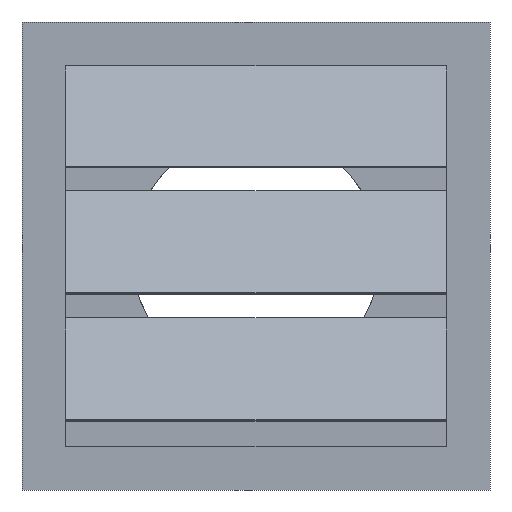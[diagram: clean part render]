
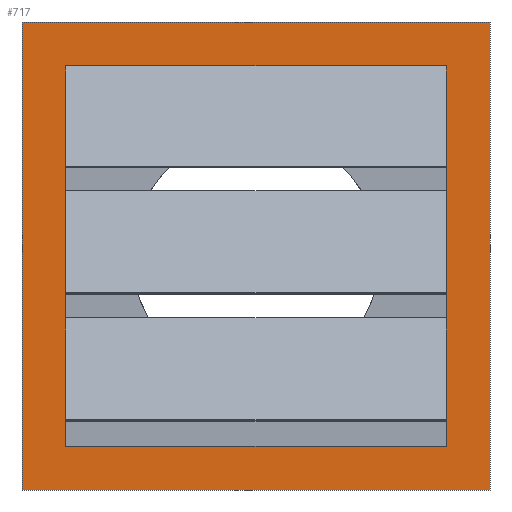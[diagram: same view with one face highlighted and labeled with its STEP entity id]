
A CAD part, front view. The second image highlights one B-rep face of the part: STEP entity #717.
In plain terms, the highlighted planar face has unit normal (0, -1, 0).
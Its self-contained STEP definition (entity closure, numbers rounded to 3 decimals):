
#21=LINE('',#996,#110);
#28=LINE('',#1011,#117);
#39=LINE('',#1030,#128);
#46=LINE('',#1045,#135);
#59=LINE('',#1066,#148);
#60=LINE('',#1069,#149);
#68=LINE('',#1084,#157);
#69=LINE('',#1086,#158);
#76=LINE('',#1101,#165);
#79=LINE('',#1106,#168);
#83=LINE('',#1114,#172);
#84=LINE('',#1117,#173);
#87=LINE('',#1123,#176);
#89=LINE('',#1126,#178);
#90=LINE('',#1128,#179);
#91=LINE('',#1130,#180);
#92=LINE('',#1134,#181);
#93=LINE('',#1136,#182);
#94=LINE('',#1138,#183);
#95=LINE('',#1139,#184);
#110=VECTOR('',#812,10.);
#117=VECTOR('',#823,10.);
#128=VECTOR('',#842,10.);
#135=VECTOR('',#853,10.);
#148=VECTOR('',#874,10.);
#149=VECTOR('',#877,10.);
#157=VECTOR('',#891,10.);
#158=VECTOR('',#894,10.);
#165=VECTOR('',#905,10.);
#168=VECTOR('',#910,10.);
#172=VECTOR('',#920,10.);
#173=VECTOR('',#923,10.);
#176=VECTOR('',#928,10.);
#178=VECTOR('',#932,10.);
#179=VECTOR('',#935,10.);
#180=VECTOR('',#938,10.);
#181=VECTOR('',#941,10.);
#182=VECTOR('',#942,10.);
#183=VECTOR('',#943,10.);
#184=VECTOR('',#944,10.);
#225=PLANE('',#772);
#234=FACE_BOUND('',#314,.T.);
#270=FACE_OUTER_BOUND('',#313,.T.);
#313=EDGE_LOOP('',(#640,#641,#642,#643));
#314=EDGE_LOOP('',(#644,#645,#646,#647,#648,#649,#650,#651,#652,#653,#654,
#655,#656,#657,#658,#659));
#339=VERTEX_POINT('',#994);
#340=VERTEX_POINT('',#995);
#345=VERTEX_POINT('',#1009);
#346=VERTEX_POINT('',#1010);
#349=VERTEX_POINT('',#1028);
#350=VERTEX_POINT('',#1029);
#355=VERTEX_POINT('',#1043);
#356=VERTEX_POINT('',#1044);
#360=VERTEX_POINT('',#1064);
#361=VERTEX_POINT('',#1068);
#365=VERTEX_POINT('',#1082);
#368=VERTEX_POINT('',#1091);
#371=VERTEX_POINT('',#1097);
#374=VERTEX_POINT('',#1116);
#375=VERTEX_POINT('',#1120);
#376=VERTEX_POINT('',#1122);
#377=VERTEX_POINT('',#1132);
#378=VERTEX_POINT('',#1133);
#379=VERTEX_POINT('',#1135);
#380=VERTEX_POINT('',#1137);
#398=EDGE_CURVE('',#339,#340,#21,.T.);
#405=EDGE_CURVE('',#345,#346,#28,.T.);
#416=EDGE_CURVE('',#349,#350,#39,.T.);
#423=EDGE_CURVE('',#355,#356,#46,.T.);
#436=EDGE_CURVE('',#340,#360,#59,.T.);
#437=EDGE_CURVE('',#361,#349,#60,.T.);
#445=EDGE_CURVE('',#356,#365,#68,.T.);
#446=EDGE_CURVE('',#346,#355,#69,.T.);
#453=EDGE_CURVE('',#365,#368,#76,.T.);
#456=EDGE_CURVE('',#371,#361,#79,.T.);
#460=EDGE_CURVE('',#350,#339,#83,.T.);
#461=EDGE_CURVE('',#374,#345,#84,.T.);
#464=EDGE_CURVE('',#376,#375,#87,.T.);
#466=EDGE_CURVE('',#375,#371,#89,.T.);
#467=EDGE_CURVE('',#368,#376,#90,.T.);
#468=EDGE_CURVE('',#360,#374,#91,.T.);
#469=EDGE_CURVE('',#377,#378,#92,.T.);
#470=EDGE_CURVE('',#378,#379,#93,.T.);
#471=EDGE_CURVE('',#379,#380,#94,.T.);
#472=EDGE_CURVE('',#380,#377,#95,.T.);
#640=ORIENTED_EDGE('',*,*,#469,.T.);
#641=ORIENTED_EDGE('',*,*,#470,.T.);
#642=ORIENTED_EDGE('',*,*,#471,.T.);
#643=ORIENTED_EDGE('',*,*,#472,.T.);
#644=ORIENTED_EDGE('',*,*,#466,.T.);
#645=ORIENTED_EDGE('',*,*,#456,.T.);
#646=ORIENTED_EDGE('',*,*,#437,.T.);
#647=ORIENTED_EDGE('',*,*,#416,.T.);
#648=ORIENTED_EDGE('',*,*,#460,.T.);
#649=ORIENTED_EDGE('',*,*,#398,.T.);
#650=ORIENTED_EDGE('',*,*,#436,.T.);
#651=ORIENTED_EDGE('',*,*,#468,.T.);
#652=ORIENTED_EDGE('',*,*,#461,.T.);
#653=ORIENTED_EDGE('',*,*,#405,.T.);
#654=ORIENTED_EDGE('',*,*,#446,.T.);
#655=ORIENTED_EDGE('',*,*,#423,.T.);
#656=ORIENTED_EDGE('',*,*,#445,.T.);
#657=ORIENTED_EDGE('',*,*,#453,.T.);
#658=ORIENTED_EDGE('',*,*,#467,.T.);
#659=ORIENTED_EDGE('',*,*,#464,.T.);
#717=ADVANCED_FACE('',(#270,#234),#225,.T.);
#772=AXIS2_PLACEMENT_3D('',#1131,#939,#940);
#812=DIRECTION('',(0.,0.,-1.));
#823=DIRECTION('',(0.,0.,1.));
#842=DIRECTION('',(0.,0.,-1.));
#853=DIRECTION('',(0.,0.,1.));
#874=DIRECTION('',(0.,0.,-1.));
#877=DIRECTION('',(0.,0.,-1.));
#891=DIRECTION('',(0.,0.,1.));
#894=DIRECTION('',(0.,0.,1.));
#905=DIRECTION('',(0.,0.,1.));
#910=DIRECTION('',(0.,0.,-1.));
#920=DIRECTION('',(0.,0.,-1.));
#923=DIRECTION('',(0.,0.,1.));
#928=DIRECTION('',(1.,0.,0.));
#932=DIRECTION('',(0.,0.,-1.));
#935=DIRECTION('',(0.,0.,1.));
#938=DIRECTION('',(-1.,0.,0.));
#939=DIRECTION('center_axis',(0.,-1.,0.));
#940=DIRECTION('ref_axis',(0.,0.,-1.));
#941=DIRECTION('',(1.,0.,0.));
#942=DIRECTION('',(0.,0.,1.));
#943=DIRECTION('',(-1.,0.,0.));
#944=DIRECTION('',(0.,0.,-1.));
#994=CARTESIAN_POINT('',(65.,-7.5,-30.119));
#995=CARTESIAN_POINT('',(65.,-7.5,-31.8));
#996=CARTESIAN_POINT('',(65.,-7.5,32.5));
#1009=CARTESIAN_POINT('',(-65.,-7.5,-31.8));
#1010=CARTESIAN_POINT('',(-65.,-7.5,-30.119));
#1011=CARTESIAN_POINT('',(-65.,-7.5,-32.5));
#1028=CARTESIAN_POINT('',(65.,-7.5,13.214));
#1029=CARTESIAN_POINT('',(65.,-7.5,11.534));
#1030=CARTESIAN_POINT('',(65.,-7.5,32.5));
#1043=CARTESIAN_POINT('',(-65.,-7.5,11.534));
#1044=CARTESIAN_POINT('',(-65.,-7.5,13.214));
#1045=CARTESIAN_POINT('',(-65.,-7.5,-32.5));
#1064=CARTESIAN_POINT('',(65.,-7.5,-65.));
#1066=CARTESIAN_POINT('',(65.,-7.5,32.5));
#1068=CARTESIAN_POINT('',(65.,-7.5,54.867));
#1069=CARTESIAN_POINT('',(65.,-7.5,32.5));
#1082=CARTESIAN_POINT('',(-65.,-7.5,54.867));
#1084=CARTESIAN_POINT('',(-65.,-7.5,-32.5));
#1086=CARTESIAN_POINT('',(-65.,-7.5,-32.5));
#1091=CARTESIAN_POINT('',(-65.,-7.5,56.548));
#1097=CARTESIAN_POINT('',(65.,-7.5,56.548));
#1101=CARTESIAN_POINT('',(-65.,-7.5,-32.5));
#1106=CARTESIAN_POINT('',(65.,-7.5,32.5));
#1114=CARTESIAN_POINT('',(65.,-7.5,32.5));
#1116=CARTESIAN_POINT('',(-65.,-7.5,-65.));
#1117=CARTESIAN_POINT('',(-65.,-7.5,-32.5));
#1120=CARTESIAN_POINT('',(65.,-7.5,65.));
#1122=CARTESIAN_POINT('',(-65.,-7.5,65.));
#1123=CARTESIAN_POINT('',(-32.5,-7.5,65.));
#1126=CARTESIAN_POINT('',(65.,-7.5,32.5));
#1128=CARTESIAN_POINT('',(-65.,-7.5,-32.5));
#1130=CARTESIAN_POINT('',(32.5,-7.5,-65.));
#1131=CARTESIAN_POINT('Origin',(0.,-7.5,0.));
#1132=CARTESIAN_POINT('',(-80.,-7.5,-80.));
#1133=CARTESIAN_POINT('',(80.,-7.5,-80.));
#1134=CARTESIAN_POINT('',(-80.,-7.5,-80.));
#1135=CARTESIAN_POINT('',(80.,-7.5,80.));
#1136=CARTESIAN_POINT('',(80.,-7.5,-80.));
#1137=CARTESIAN_POINT('',(-80.,-7.5,80.));
#1138=CARTESIAN_POINT('',(80.,-7.5,80.));
#1139=CARTESIAN_POINT('',(-80.,-7.5,80.));
